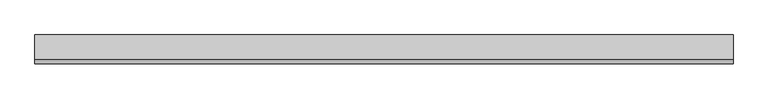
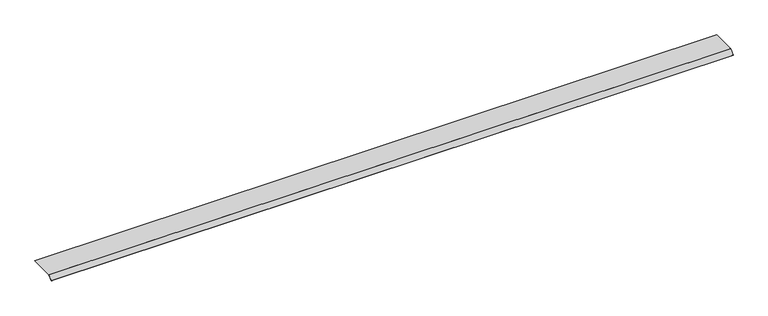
"""IFC4 building model written with IfcOpenShell, lengths in millimetres: proxy geometry, Electrical_Installation_Hager_Blank-Cover-800mm-Single-Sided-Height-70mm : Electrical_Installation_Hager_Blank-Cover-800mm-Single-Sided-Height-70mm."""

from ifc_helpers import new_model, si_unit, point, frame, frame_2d, origin, place, context, project, spatial, polyline, circle_curve, trimmed, segment, composite_curve, outline, extrude, source, transform, mapped, element, save


def electrical_fixtures_3c40ff21(model_context):
    return source(origin(), model_context, "Body", "SweptSolid", [
        extrude(outline(composite_curve([segment(polyline([(200.0, 40.5), (200.0, 37.5), (-199.8229541, 37.5)]), True, "CONTINUOUS"), segment(trimmed(circle_curve(frame_2d((-199.8229541, 36.0725733)), 1.4274267), [point((-199.8229541, 37.5))], [point((-200.8322972, 37.0819164))], True, "CARTESIAN"), True, "CONTINUOUS"), segment(polyline([(-200.8322972, 37.0819164), (-268.6627596, -30.7485461), (-270.78408, -28.6272257), (-202.8206472, 39.336207)]), True, "CONTINUOUS"), segment(trimmed(circle_curve(frame_2d((-200.0110025, 36.5265623)), 3.9734377), [point((-202.8206472, 39.336207))], [point((-200.0110025, 40.5))], False, "CARTESIAN"), True, "CONTINUOUS"), segment(polyline([(-200.0110025, 40.5), (200.0, 40.5)]), True, "CONTINUOUS")], self_intersect=False)), frame((0.0, 0.0, 0.0), z_axis=(1.0, 0.0, 0.0), x_axis=(0.0, 1.0, 0.0)), (0.0, 0.0, 1.0), 11303.0),
    ])


if __name__ == "__main__":
    model = new_model("IFC4")
    model_context = context("Model", 3, world=origin())
    ifc_project = project(units=[si_unit("LENGTHUNIT", "METRE", prefix="MILLI")], contexts=[model_context])
    site = spatial("IfcSite", under=ifc_project)
    building = spatial("IfcBuilding", under=site)
    placement = place(None, origin())
    electrical_fixtures_shape = electrical_fixtures_3c40ff21(model_context)
    element("IfcBuildingElementProxy", 1, Name="Electrical_Installation_Hager_Blank-Cover-800mm-Single-Sided-Height-70mm : Electrical_Installation_Hager_Blank-Cover-800mm-Single-Sided-Height-70mm", ObjectType="Electrical_Installation_Hager_Blank-Cover-800mm-Single-Sided-Height-70mm : Electrical_Installation_Hager_Blank-Cover-800mm-Single-Sided-Height-70mm", at=placement, inside=building, context=model_context, shape_type="MappedRepresentation", body=[
        mapped(electrical_fixtures_shape, transform((0.0, 0.0, 0.0), x_axis=(1.0, 0.0, 0.0), y_axis=(0.0, 1.0, 0.0), z_axis=(0.0, 0.0, 1.0))),
    ])
    save(model, "model.ifc")
